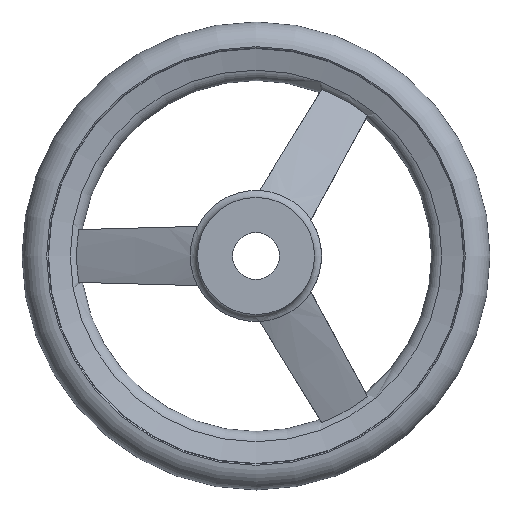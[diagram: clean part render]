
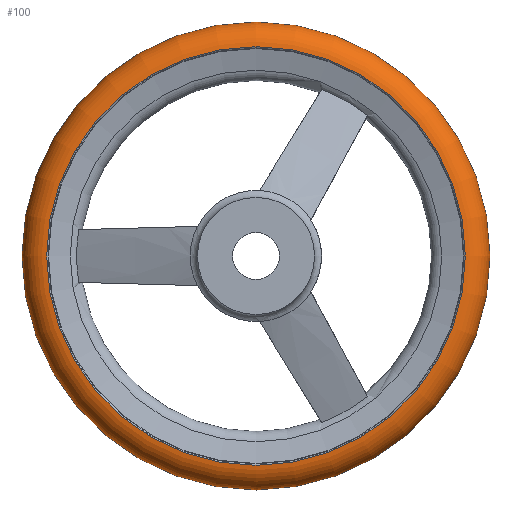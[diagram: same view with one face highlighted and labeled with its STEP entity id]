
A CAD part, left-side view. The second image highlights one B-rep face of the part: STEP entity #100.
In plain terms, the highlighted toroidal (fillet/blend) face has major radius 89 mm and minor radius 11 mm.
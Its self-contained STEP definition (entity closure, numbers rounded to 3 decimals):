
#100 = ADVANCED_FACE( '', ( #172, #173, #174 ), #175, .T. );
#172 = FACE_BOUND( '', #260, .T. );
#173 = FACE_OUTER_BOUND( '', #261, .T. );
#174 = FACE_OUTER_BOUND( '', #262, .T. );
#175 = TOROIDAL_SURFACE( '', #263, 89., 11. );
#260 = VERTEX_LOOP( '', #486 );
#261 = EDGE_LOOP( '', ( #487 ) );
#262 = EDGE_LOOP( '', ( #488 ) );
#263 = AXIS2_PLACEMENT_3D( '', #489, #490, #491 );
#486 = VERTEX_POINT( '', #593 );
#487 = ORIENTED_EDGE( '', *, *, #594, .T. );
#488 = ORIENTED_EDGE( '', *, *, #592, .F. );
#489 = CARTESIAN_POINT( '', ( 48., 0., 0. ) );
#490 = DIRECTION( '', ( -1., 0., 0. ) );
#491 = DIRECTION( '', ( 0., -1., 0. ) );
#592 = EDGE_CURVE( '', #711, #711, #712, .T. );
#593 = CARTESIAN_POINT( '', ( 48., -100., 0. ) );
#594 = EDGE_CURVE( '', #713, #713, #714, .T. );
#711 = VERTEX_POINT( '', #1117 );
#712 = CIRCLE( '', #1118, 89.458 );
#713 = VERTEX_POINT( '', #1119 );
#714 = CIRCLE( '', #1120, 89.458 );
#1117 = CARTESIAN_POINT( '', ( 37.01, -89.458, 0. ) );
#1118 = AXIS2_PLACEMENT_3D( '', #1222, #1223, #1224 );
#1119 = CARTESIAN_POINT( '', ( 58.99, -89.458, 0. ) );
#1120 = AXIS2_PLACEMENT_3D( '', #1225, #1226, #1227 );
#1222 = CARTESIAN_POINT( '', ( 37.01, 0., 0. ) );
#1223 = DIRECTION( '', ( -1., 0., 0. ) );
#1224 = DIRECTION( '', ( 0., -1., 0. ) );
#1225 = CARTESIAN_POINT( '', ( 58.99, 0., 0. ) );
#1226 = DIRECTION( '', ( -1., 0., 0. ) );
#1227 = DIRECTION( '', ( 0., -1., 0. ) );
